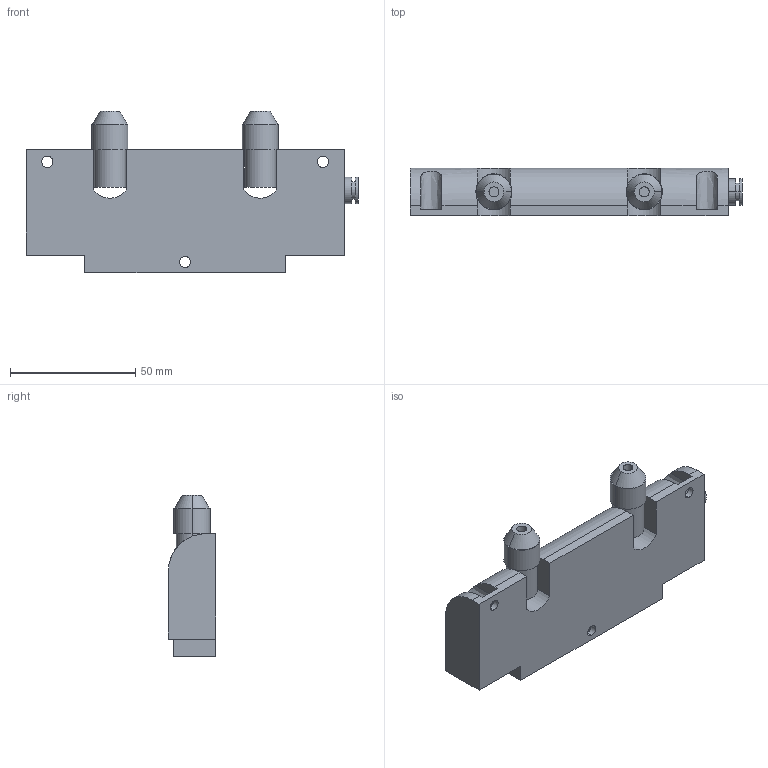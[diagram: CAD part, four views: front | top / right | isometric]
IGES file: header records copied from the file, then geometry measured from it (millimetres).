
Start section: SolidWorks IGES FILE using analytic representation for surfaces
Global section: file name: \\intra-srv04\開発データ\CAD_Data\CAD委員会\3D電子ｶﾀﾛｸﾞ\製品カタログ（新）\0_IGES\ER-VW.IGS,41HSolidWorks 2004; native system: by SolidWorks Corporation; preprocessor: Version 5.3; author: mf1158; date: 050906.114217; units: millimetre
Bounding box: 132.5 x 18.9 x 64.35 mm (x, y, z)
Volume: 101513.5 mm3; surface area: 22358.5 mm2
Topology: 3 solids, 3 shells, 80 faces, 192 edges, 128 vertices
Faces by surface type: plane 41, revolution 39
